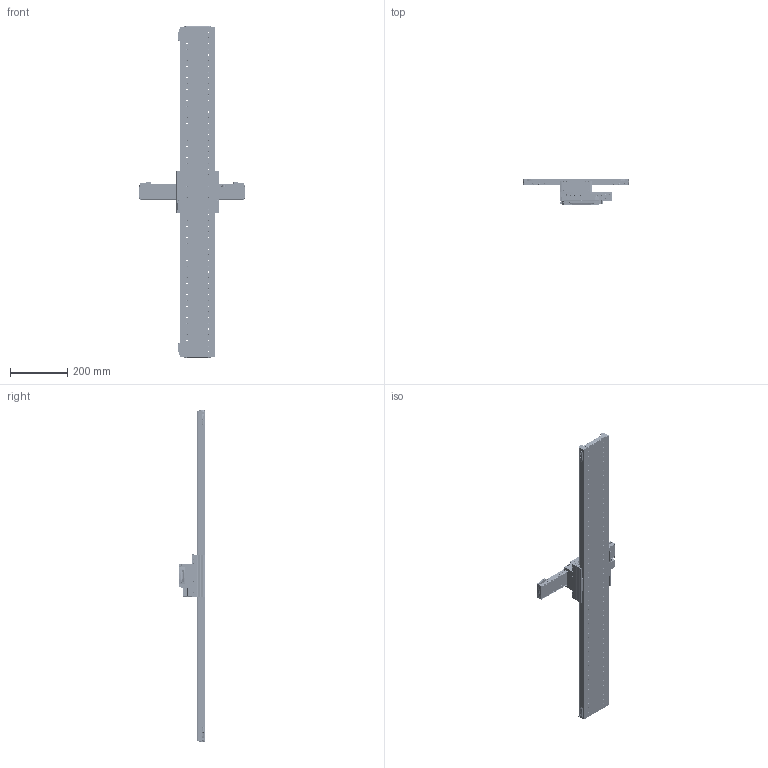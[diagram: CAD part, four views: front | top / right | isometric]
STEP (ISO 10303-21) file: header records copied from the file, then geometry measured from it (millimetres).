
FILE_DESCRIPTION (( 'STEP AP214' ), '1' );
FILE_NAME ('cross table Lxs X-1000F120 Lxu Y-240F60.STEP', '2024-03-20T15:04:25', ( '' ), ( '' ), 'SwSTEP 2.0', 'SolidWorks 2024', '' );
FILE_SCHEMA (( 'AUTOMOTIVE_DESIGN' ));
Length unit declared in the file: millimetre
Products named in the file (57): Jenny Science 5493; Jenny Science 5531; Jenny Science 5510; Jenny Science 5497; Jenny Science 5526; Jenny Science 5523; Jenny Science 5507; Jenny Science 5498; Jenny Science 5512; Jenny Science 5506; Jenny Science 5491; Jenny Science 5484; Jenny Science 5524; Jenny Science 5518; Jenny Science 5489; Jenny Science 5503; Jenny Science 5525; Jenny Science 5527; Jenny Science 5521; Jenny Science 5508; Jenny Science 5486; Jenny Science 5504; Jenny Science 5513; Jenny Science 5494; Jenny Science 5490; Jenny Science 5509; Jenny Science 5529; Jenny Science 5477; Jenny Science 5481; Jenny Science 5522; Jenny Science 5502; Jenny Science 5517; Jenny Science 5511; Jenny Science 5488; Jenny Science 5483; Jenny Science 5520; Jenny Science 5496; Jenny Science 5499; Jenny Science 5516; Jenny Science 5500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
Assembly tree (210 placements, depth 4):
  Jenny Science 5484
    Jenny Science 5512
      Jenny Science 5532
      Jenny Science 5515  x2
      Jenny Science 5531  x2
      Jenny Science 5518  x2
      Jenny Science 5529  x2
      Jenny Science 5480  x2
      Jenny Science 5503  x2
      Jenny Science 5494  x4
    Jenny Science 5491
      Jenny Science 5500
      Jenny Science 5481  x8
      Jenny Science 5488  x4
        Jenny Science 5485
        Jenny Science 5501
      Jenny Science 5495
      Jenny Science 5519
      Jenny Science 5528  x2
      Jenny Science 5482  x4
      Jenny Science 5486
      Jenny Science 5523  x6
      Jenny Science 5517  x2
    Jenny Science 5524
      Jenny Science 5502
      Jenny Science 5520  x2
      Jenny Science 5495  x36
      Jenny Science 5490  x2
      Jenny Science 5508  x2
      Jenny Science 5511  x2
      Jenny Science 5521  x4
      Jenny Science 5530  x2
      Jenny Science 5477  x36
      Jenny Science 5525
      Jenny Science 5505  x2
    Jenny Science 5478
      Jenny Science 5489
      Jenny Science 5493
      Jenny Science 5526  x4
        Jenny Science 5498
        Jenny Science 5487
      Jenny Science 5504  x16
      Jenny Science 5476  x4
      Jenny Science 5496  x2
      Jenny Science 5511  x4
      Jenny Science 5499
      Jenny Science 5516  x2
      Jenny Science 5508  x2
      Jenny Science 5513
        Jenny Science 5492
        Jenny Science 5528  x2
        Jenny Science 5522
        Jenny Science 5479
        Jenny Science 5506  x4
        Jenny Science 5507  x2
        Jenny Science 5497  x2
      Jenny Science 5509
      Jenny Science 5483  x2
      Jenny Science 5527  x2
    Jenny Science 5514  x4
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Bounding box: 370.75 x 91 x 1162.99 mm (x, y, z)
Volume: 3872398.1 mm3; surface area: 871762.6 mm2
Topology: 212 solids, 226 shells, 11594 faces, 28208 edges, 16970 vertices
Faces by surface type: cylinder 4110, cone 3344, plane 3328, torus 586, bspline 184, sphere 42
Entity records: 154832 total; most frequent: CARTESIAN_POINT 29533, DIRECTION 23822, ORIENTED_EDGE 21170, EDGE_CURVE 10585, AXIS2_PLACEMENT_3D 9374, VERTEX_POINT 6739, EDGE_LOOP 5508, LINE 5074
